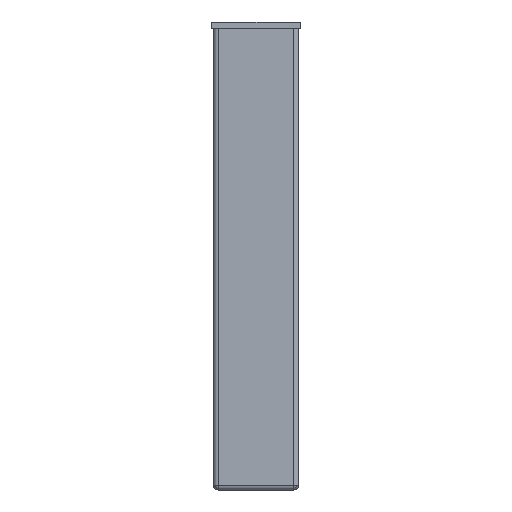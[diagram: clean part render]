
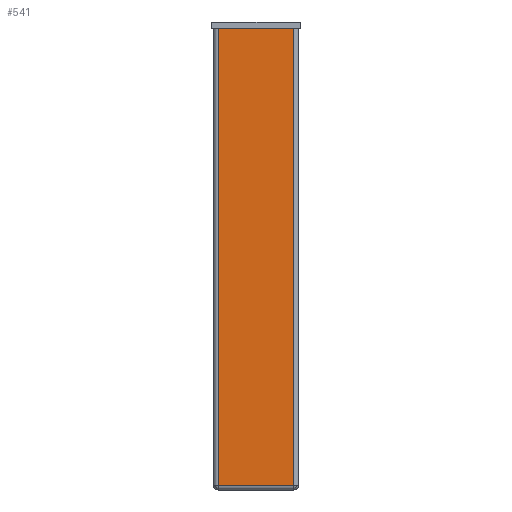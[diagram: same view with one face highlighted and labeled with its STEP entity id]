
A CAD part, left-side view. The second image highlights one B-rep face of the part: STEP entity #541.
In plain terms, the highlighted planar face has unit normal (-1, 0, 0).
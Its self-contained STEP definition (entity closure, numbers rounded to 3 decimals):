
#314 = EDGE_LOOP ( 'NONE', ( #317, #315, #325, #322 ) ) ;
#315 = ORIENTED_EDGE ( 'NONE', *, *, #318, .T. ) ;
#316 = VERTEX_POINT ( 'NONE', #3733 ) ;
#317 = ORIENTED_EDGE ( 'NONE', *, *, #320, .F. ) ;
#318 = EDGE_CURVE ( 'NONE', #321, #316, #3731, .T. ) ;
#320 = EDGE_CURVE ( 'NONE', #321, #494, #3722, .T. ) ;
#321 = VERTEX_POINT ( 'NONE', #3732 ) ;
#322 = ORIENTED_EDGE ( 'NONE', *, *, #326, .T. ) ;
#324 = EDGE_CURVE ( 'NONE', #316, #484, #3717, .T. ) ;
#325 = ORIENTED_EDGE ( 'NONE', *, *, #324, .T. ) ;
#326 = EDGE_CURVE ( 'NONE', #484, #494, #3709, .T. ) ;
#484 = VERTEX_POINT ( 'NONE', #3788 ) ;
#494 = VERTEX_POINT ( 'NONE', #3763 ) ;
#541 = ADVANCED_FACE ( 'NONE', ( #3839 ), #3838, .F. ) ;
#3695 = DIRECTION ( 'NONE',  ( 0., 0., 1. ) ) ;
#3696 = VECTOR ( 'NONE', #3695, 1000. ) ;
#3708 = CARTESIAN_POINT ( 'NONE',  ( -215.5, -18.7, 0. ) ) ;
#3709 = LINE ( 'NONE', #3708, #3696 ) ;
#3712 = DIRECTION ( 'NONE',  ( 0., -1., 0. ) ) ;
#3713 = VECTOR ( 'NONE', #3712, 1000. ) ;
#3714 = CARTESIAN_POINT ( 'NONE',  ( -215.5, 0., -111.45 ) ) ;
#3717 = LINE ( 'NONE', #3714, #3713 ) ;
#3719 = DIRECTION ( 'NONE',  ( 0., -1., 0. ) ) ;
#3720 = VECTOR ( 'NONE', #3719, 1000. ) ;
#3721 = CARTESIAN_POINT ( 'NONE',  ( -215.5, 21.1, 113.85 ) ) ;
#3722 = LINE ( 'NONE', #3721, #3720 ) ;
#3728 = DIRECTION ( 'NONE',  ( 0., 0., -1. ) ) ;
#3729 = VECTOR ( 'NONE', #3728, 1000. ) ;
#3730 = CARTESIAN_POINT ( 'NONE',  ( -215.5, 18.7, 0. ) ) ;
#3731 = LINE ( 'NONE', #3730, #3729 ) ;
#3732 = CARTESIAN_POINT ( 'NONE',  ( -215.5, 18.7, 113.85 ) ) ;
#3733 = CARTESIAN_POINT ( 'NONE',  ( -215.5, 18.7, -111.45 ) ) ;
#3763 = CARTESIAN_POINT ( 'NONE',  ( -215.5, -18.7, 113.85 ) ) ;
#3788 = CARTESIAN_POINT ( 'NONE',  ( -215.5, -18.7, -111.45 ) ) ;
#3831 = DIRECTION ( 'NONE',  ( 0., 0., -1. ) ) ;
#3838 = PLANE ( 'NONE',  #3939 ) ;
#3839 = FACE_OUTER_BOUND ( 'NONE', #314, .T. ) ;
#3934 = DIRECTION ( 'NONE',  ( 1., 0., 0. ) ) ;
#3939 = AXIS2_PLACEMENT_3D ( 'NONE', #3944, #3934, #3831 ) ;
#3944 = CARTESIAN_POINT ( 'NONE',  ( -215.5, 0., 0. ) ) ;
